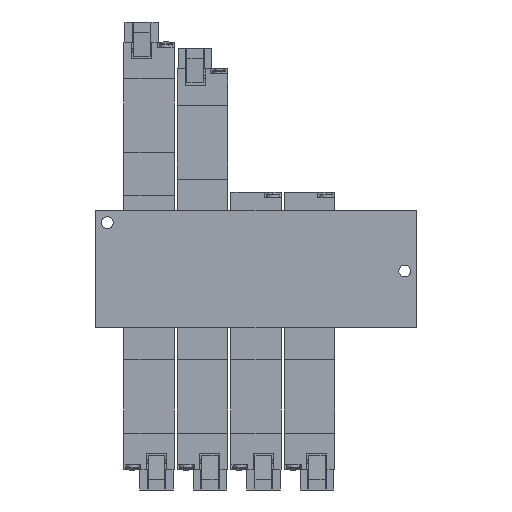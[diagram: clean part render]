
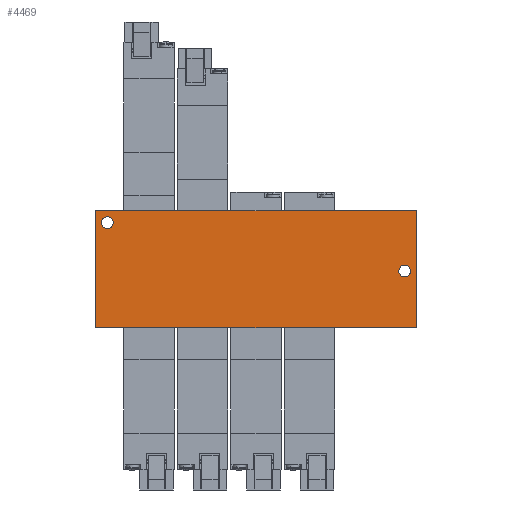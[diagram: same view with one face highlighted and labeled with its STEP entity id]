
A CAD part, front view. The second image highlights one B-rep face of the part: STEP entity #4469.
In plain terms, the highlighted planar face has unit normal (0, -1, 0).
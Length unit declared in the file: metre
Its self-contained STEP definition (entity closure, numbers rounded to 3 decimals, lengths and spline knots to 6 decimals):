
#444 = VECTOR ( 'NONE', #6192, 1. ) ;
#678 = DIRECTION ( 'NONE',  ( 0., -1., 0. ) ) ;
#1190 = FACE_BOUND ( 'NONE', #6225, .T. ) ;
#1203 = EDGE_LOOP ( 'NONE', ( #3274, #1934 ) ) ;
#1239 = CARTESIAN_POINT ( 'NONE',  ( 0.048, -0.0095, -0.0175 ) ) ;
#1392 = CARTESIAN_POINT ( 'NONE',  ( 0.048, -0.0095, 0.0175 ) ) ;
#1671 = CARTESIAN_POINT ( 'NONE',  ( -0.0445, -0.0095, 0.014 ) ) ;
#1934 = ORIENTED_EDGE ( 'NONE', *, *, #11771, .F. ) ;
#2533 = ORIENTED_EDGE ( 'NONE', *, *, #16115, .F. ) ;
#2627 = DIRECTION ( 'NONE',  ( 0., -1., 0. ) ) ;
#2773 = EDGE_CURVE ( 'NONE', #11796, #4494, #3824, .T. ) ;
#2950 = DIRECTION ( 'NONE',  ( 0., 0., 1. ) ) ;
#3246 = CARTESIAN_POINT ( 'NONE',  ( 0.0445, -0.0095, 0.00125 ) ) ;
#3274 = ORIENTED_EDGE ( 'NONE', *, *, #14094, .F. ) ;
#3438 = CIRCLE ( 'NONE', #13246, 0.00175 ) ;
#3824 = LINE ( 'NONE', #12555, #444 ) ;
#3847 = DIRECTION ( 'NONE',  ( 0., -1., 0. ) ) ;
#4184 = EDGE_LOOP ( 'NONE', ( #11575, #10682, #13845, #8408 ) ) ;
#4310 = ORIENTED_EDGE ( 'NONE', *, *, #16314, .F. ) ;
#4469 = ADVANCED_FACE ( 'NONE', ( #1190, #11381, #4581 ), #13945, .F. ) ;
#4494 = VERTEX_POINT ( 'NONE', #14501 ) ;
#4581 = FACE_OUTER_BOUND ( 'NONE', #4184, .T. ) ;
#4629 = VECTOR ( 'NONE', #16435, 1. ) ;
#4642 = AXIS2_PLACEMENT_3D ( 'NONE', #14089, #14118, #14140 ) ;
#5168 = CARTESIAN_POINT ( 'NONE',  ( -0.048, -0.0095, 0. ) ) ;
#5420 = DIRECTION ( 'NONE',  ( 0., 0., 1. ) ) ;
#5485 = EDGE_CURVE ( 'NONE', #4494, #6171, #16406, .T. ) ;
#5642 = LINE ( 'NONE', #9047, #8626 ) ;
#6053 = CIRCLE ( 'NONE', #6293, 0.00175 ) ;
#6138 = CARTESIAN_POINT ( 'NONE',  ( -0.0445, -0.0095, 0.01575 ) ) ;
#6171 = VERTEX_POINT ( 'NONE', #14500 ) ;
#6192 = DIRECTION ( 'NONE',  ( -1., 0., 0. ) ) ;
#6225 = EDGE_LOOP ( 'NONE', ( #2533, #4310 ) ) ;
#6293 = AXIS2_PLACEMENT_3D ( 'NONE', #10298, #2627, #11576 ) ;
#7852 = CIRCLE ( 'NONE', #10300, 0.00175 ) ;
#8351 = CARTESIAN_POINT ( 'NONE',  ( 0.0445, -0.0095, -0.0005 ) ) ;
#8408 = ORIENTED_EDGE ( 'NONE', *, *, #2773, .F. ) ;
#8439 = LINE ( 'NONE', #8729, #4629 ) ;
#8626 = VECTOR ( 'NONE', #9087, 1. ) ;
#8729 = CARTESIAN_POINT ( 'NONE',  ( 0., -0.0095, 0.0175 ) ) ;
#9047 = CARTESIAN_POINT ( 'NONE',  ( 0.048, -0.0095, 0. ) ) ;
#9087 = DIRECTION ( 'NONE',  ( 0., 0., -1. ) ) ;
#9425 = AXIS2_PLACEMENT_3D ( 'NONE', #11504, #3847, #12825 ) ;
#9618 = DIRECTION ( 'NONE',  ( 0., 0., 1. ) ) ;
#9716 = VERTEX_POINT ( 'NONE', #12271 ) ;
#10193 = EDGE_CURVE ( 'NONE', #15171, #11796, #5642, .T. ) ;
#10298 = CARTESIAN_POINT ( 'NONE',  ( -0.0445, -0.0095, 0.014 ) ) ;
#10300 = AXIS2_PLACEMENT_3D ( 'NONE', #1671, #10634, #2950 ) ;
#10634 = DIRECTION ( 'NONE',  ( 0., -1., 0. ) ) ;
#10682 = ORIENTED_EDGE ( 'NONE', *, *, #15965, .F. ) ;
#10873 = VERTEX_POINT ( 'NONE', #6138 ) ;
#11381 = FACE_BOUND ( 'NONE', #1203, .T. ) ;
#11504 = CARTESIAN_POINT ( 'NONE',  ( 0.0445, -0.0095, -0.0005 ) ) ;
#11575 = ORIENTED_EDGE ( 'NONE', *, *, #10193, .F. ) ;
#11576 = DIRECTION ( 'NONE',  ( 0., 0., 1. ) ) ;
#11771 = EDGE_CURVE ( 'NONE', #15743, #13438, #14433, .T. ) ;
#11796 = VERTEX_POINT ( 'NONE', #1239 ) ;
#12271 = CARTESIAN_POINT ( 'NONE',  ( -0.0445, -0.0095, 0.01225 ) ) ;
#12555 = CARTESIAN_POINT ( 'NONE',  ( 0., -0.0095, -0.0175 ) ) ;
#12825 = DIRECTION ( 'NONE',  ( 0., 0., 1. ) ) ;
#13246 = AXIS2_PLACEMENT_3D ( 'NONE', #8351, #678, #9618 ) ;
#13438 = VERTEX_POINT ( 'NONE', #3246 ) ;
#13845 = ORIENTED_EDGE ( 'NONE', *, *, #5485, .F. ) ;
#13945 = PLANE ( 'NONE',  #4642 ) ;
#14089 = CARTESIAN_POINT ( 'NONE',  ( -0.048, -0.0095, -0.0175 ) ) ;
#14094 = EDGE_CURVE ( 'NONE', #13438, #15743, #3438, .T. ) ;
#14118 = DIRECTION ( 'NONE',  ( 0., 1., 0. ) ) ;
#14140 = DIRECTION ( 'NONE',  ( 0., 0., 1. ) ) ;
#14433 = CIRCLE ( 'NONE', #9425, 0.00175 ) ;
#14500 = CARTESIAN_POINT ( 'NONE',  ( -0.048, -0.0095, 0.0175 ) ) ;
#14501 = CARTESIAN_POINT ( 'NONE',  ( -0.048, -0.0095, -0.0175 ) ) ;
#15171 = VERTEX_POINT ( 'NONE', #1392 ) ;
#15743 = VERTEX_POINT ( 'NONE', #16045 ) ;
#15965 = EDGE_CURVE ( 'NONE', #6171, #15171, #8439, .T. ) ;
#15995 = VECTOR ( 'NONE', #5420, 1. ) ;
#16045 = CARTESIAN_POINT ( 'NONE',  ( 0.0445, -0.0095, -0.00225 ) ) ;
#16115 = EDGE_CURVE ( 'NONE', #10873, #9716, #6053, .T. ) ;
#16314 = EDGE_CURVE ( 'NONE', #9716, #10873, #7852, .T. ) ;
#16406 = LINE ( 'NONE', #5168, #15995 ) ;
#16435 = DIRECTION ( 'NONE',  ( 1., 0., 0. ) ) ;
